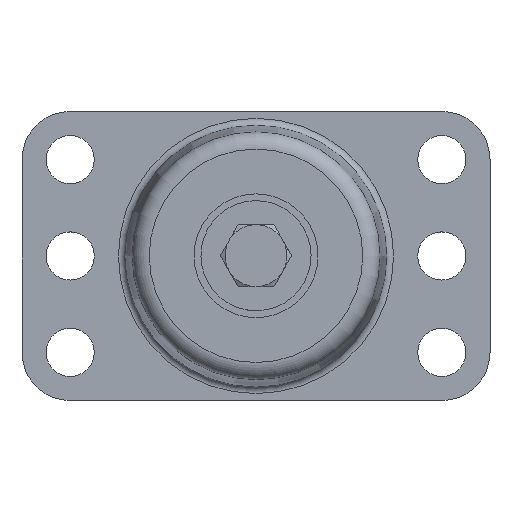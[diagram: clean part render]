
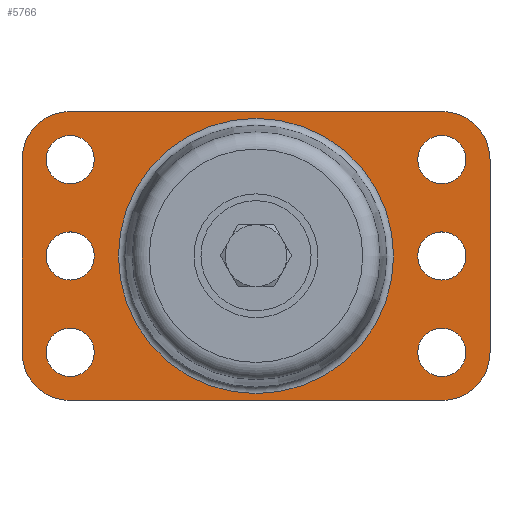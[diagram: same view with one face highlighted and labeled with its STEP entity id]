
A CAD part, top view. The second image highlights one B-rep face of the part: STEP entity #5766.
In plain terms, the highlighted planar face has unit normal (0, 0, 1).
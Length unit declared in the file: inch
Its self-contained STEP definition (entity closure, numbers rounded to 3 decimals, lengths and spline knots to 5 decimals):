
#320=PLANE('',#6127);
#514=LINE('',#7630,#1036);
#518=LINE('',#7642,#1040);
#522=LINE('',#7654,#1044);
#526=LINE('',#7665,#1048);
#1036=VECTOR('',#6460,1.75);
#1040=VECTOR('',#6472,3.375);
#1044=VECTOR('',#6484,3.375);
#1048=VECTOR('',#6496,1.75);
#1565=FACE_BOUND('',#2007,.T.);
#1566=FACE_BOUND('',#2008,.T.);
#1567=FACE_BOUND('',#2009,.T.);
#1568=FACE_BOUND('',#2010,.T.);
#1569=FACE_BOUND('',#2011,.T.);
#1570=FACE_BOUND('',#2012,.T.);
#1571=FACE_BOUND('',#2013,.T.);
#1667=FACE_OUTER_BOUND('',#2006,.T.);
#2006=EDGE_LOOP('',(#3866,#3867,#3868,#3869,#3870,#3871,#3872,#3873));
#2007=EDGE_LOOP('',(#3874));
#2008=EDGE_LOOP('',(#3875));
#2009=EDGE_LOOP('',(#3876));
#2010=EDGE_LOOP('',(#3877));
#2011=EDGE_LOOP('',(#3878));
#2012=EDGE_LOOP('',(#3879));
#2013=EDGE_LOOP('',(#3880));
#2404=CIRCLE('',#6087,0.21875);
#2406=CIRCLE('',#6090,0.21875);
#2408=CIRCLE('',#6093,0.21875);
#2410=CIRCLE('',#6096,0.21875);
#2412=CIRCLE('',#6099,0.21875);
#2414=CIRCLE('',#6102,0.21875);
#2416=CIRCLE('',#6105,0.4375);
#2418=CIRCLE('',#6109,0.4375);
#2420=CIRCLE('',#6113,0.4375);
#2422=CIRCLE('',#6117,0.4375);
#2427=CIRCLE('',#6126,1.24982);
#2486=VERTEX_POINT('',#7590);
#2488=VERTEX_POINT('',#7595);
#2490=VERTEX_POINT('',#7600);
#2492=VERTEX_POINT('',#7605);
#2494=VERTEX_POINT('',#7610);
#2496=VERTEX_POINT('',#7615);
#2498=VERTEX_POINT('',#7620);
#2499=VERTEX_POINT('',#7621);
#2502=VERTEX_POINT('',#7629);
#2504=VERTEX_POINT('',#7635);
#2506=VERTEX_POINT('',#7641);
#2508=VERTEX_POINT('',#7647);
#2510=VERTEX_POINT('',#7653);
#2512=VERTEX_POINT('',#7659);
#2517=VERTEX_POINT('',#7676);
#3028=EDGE_CURVE('',#2486,#2486,#2404,.T.);
#3030=EDGE_CURVE('',#2488,#2488,#2406,.T.);
#3032=EDGE_CURVE('',#2490,#2490,#2408,.T.);
#3034=EDGE_CURVE('',#2492,#2492,#2410,.T.);
#3036=EDGE_CURVE('',#2494,#2494,#2412,.T.);
#3038=EDGE_CURVE('',#2496,#2496,#2414,.T.);
#3040=EDGE_CURVE('',#2498,#2499,#2416,.T.);
#3044=EDGE_CURVE('',#2499,#2502,#514,.T.);
#3047=EDGE_CURVE('',#2502,#2504,#2418,.T.);
#3050=EDGE_CURVE('',#2504,#2506,#518,.T.);
#3053=EDGE_CURVE('',#2506,#2508,#2420,.T.);
#3056=EDGE_CURVE('',#2510,#2498,#522,.T.);
#3059=EDGE_CURVE('',#2512,#2510,#2422,.T.);
#3062=EDGE_CURVE('',#2508,#2512,#526,.T.);
#3067=EDGE_CURVE('',#2517,#2517,#2427,.T.);
#3866=ORIENTED_EDGE('',*,*,#3053,.T.);
#3867=ORIENTED_EDGE('',*,*,#3062,.T.);
#3868=ORIENTED_EDGE('',*,*,#3059,.T.);
#3869=ORIENTED_EDGE('',*,*,#3056,.T.);
#3870=ORIENTED_EDGE('',*,*,#3040,.T.);
#3871=ORIENTED_EDGE('',*,*,#3044,.T.);
#3872=ORIENTED_EDGE('',*,*,#3047,.T.);
#3873=ORIENTED_EDGE('',*,*,#3050,.T.);
#3874=ORIENTED_EDGE('',*,*,#3028,.T.);
#3875=ORIENTED_EDGE('',*,*,#3030,.T.);
#3876=ORIENTED_EDGE('',*,*,#3032,.T.);
#3877=ORIENTED_EDGE('',*,*,#3034,.T.);
#3878=ORIENTED_EDGE('',*,*,#3036,.T.);
#3879=ORIENTED_EDGE('',*,*,#3038,.T.);
#3880=ORIENTED_EDGE('',*,*,#3067,.T.);
#5766=ADVANCED_FACE('',(#1667,#1565,#1566,#1567,#1568,#1569,#1570,#1571),
#320,.T.);
#6087=AXIS2_PLACEMENT_3D('',#7591,#6416,#6417);
#6090=AXIS2_PLACEMENT_3D('',#7596,#6422,#6423);
#6093=AXIS2_PLACEMENT_3D('',#7601,#6428,#6429);
#6096=AXIS2_PLACEMENT_3D('',#7606,#6434,#6435);
#6099=AXIS2_PLACEMENT_3D('',#7611,#6440,#6441);
#6102=AXIS2_PLACEMENT_3D('',#7616,#6446,#6447);
#6105=AXIS2_PLACEMENT_3D('',#7622,#6452,#6453);
#6109=AXIS2_PLACEMENT_3D('',#7636,#6465,#6466);
#6113=AXIS2_PLACEMENT_3D('',#7648,#6477,#6478);
#6117=AXIS2_PLACEMENT_3D('',#7660,#6489,#6490);
#6126=AXIS2_PLACEMENT_3D('',#7677,#6510,#6511);
#6127=AXIS2_PLACEMENT_3D('',#7678,#6512,#6513);
#6416=DIRECTION('center_axis',(0.,0.,
-1.));
#6417=DIRECTION('ref_axis',(-1.,0.,0.));
#6422=DIRECTION('center_axis',(0.,0.,
-1.));
#6423=DIRECTION('ref_axis',(-1.,0.,0.));
#6428=DIRECTION('center_axis',(0.,0.,
-1.));
#6429=DIRECTION('ref_axis',(-1.,0.,0.));
#6434=DIRECTION('center_axis',(0.,0.,
-1.));
#6435=DIRECTION('ref_axis',(-1.,0.,0.));
#6440=DIRECTION('center_axis',(0.,0.,
-1.));
#6441=DIRECTION('ref_axis',(-1.,0.,0.));
#6446=DIRECTION('center_axis',(0.,0.,
-1.));
#6447=DIRECTION('ref_axis',(-1.,0.,0.));
#6452=DIRECTION('center_axis',(0.,0.,
1.));
#6453=DIRECTION('ref_axis',(0.,1.,0.));
#6460=DIRECTION('',(0.,-1.,0.));
#6465=DIRECTION('center_axis',(0.,0.,
1.));
#6466=DIRECTION('ref_axis',(-1.,0.,0.));
#6472=DIRECTION('',(1.,0.,0.));
#6477=DIRECTION('center_axis',(0.,0.,
1.));
#6478=DIRECTION('ref_axis',(0.,-1.,0.));
#6484=DIRECTION('',(-1.,0.,0.));
#6489=DIRECTION('center_axis',(0.,0.,
1.));
#6490=DIRECTION('ref_axis',(1.,0.,0.));
#6496=DIRECTION('',(0.,1.,0.));
#6510=DIRECTION('center_axis',(0.,0.,
-1.));
#6511=DIRECTION('ref_axis',(1.,0.,0.));
#6512=DIRECTION('center_axis',(0.,0.,
1.));
#6513=DIRECTION('ref_axis',(-1.,0.,0.));
#7590=CARTESIAN_POINT('',(-1.46875,0.875,0.09375));
#7591=CARTESIAN_POINT('Origin',(-1.6875,0.875,0.09375));
#7595=CARTESIAN_POINT('',(1.90625,-0.875,0.09375));
#7596=CARTESIAN_POINT('Origin',(1.6875,-0.875,0.09375));
#7600=CARTESIAN_POINT('',(1.90625,0.,0.09375));
#7601=CARTESIAN_POINT('Origin',(1.6875,0.,0.09375));
#7605=CARTESIAN_POINT('',(-1.46875,0.,0.09375));
#7606=CARTESIAN_POINT('Origin',(-1.6875,0.,0.09375));
#7610=CARTESIAN_POINT('',(1.90625,0.875,0.09375));
#7611=CARTESIAN_POINT('Origin',(1.6875,0.875,0.09375));
#7615=CARTESIAN_POINT('',(-1.46875,-0.875,0.09375));
#7616=CARTESIAN_POINT('Origin',(-1.6875,-0.875,0.09375));
#7620=CARTESIAN_POINT('',(-1.6875,1.3125,0.09375));
#7621=CARTESIAN_POINT('',(-2.125,0.875,0.09375));
#7622=CARTESIAN_POINT('Origin',(-1.6875,0.875,0.09375));
#7629=CARTESIAN_POINT('',(-2.125,-0.875,0.09375));
#7630=CARTESIAN_POINT('',(-2.125,-0.4375,0.09375));
#7635=CARTESIAN_POINT('',(-1.6875,-1.3125,0.09375));
#7636=CARTESIAN_POINT('Origin',(-1.6875,-0.875,0.09375));
#7641=CARTESIAN_POINT('',(1.6875,-1.3125,0.09375));
#7642=CARTESIAN_POINT('',(2.28121,-1.3125,0.09375));
#7647=CARTESIAN_POINT('',(2.125,-0.875,0.09375));
#7648=CARTESIAN_POINT('Origin',(1.6875,-0.875,0.09375));
#7653=CARTESIAN_POINT('',(1.6875,1.3125,0.09375));
#7654=CARTESIAN_POINT('',(0.59371,1.3125,0.09375));
#7659=CARTESIAN_POINT('',(2.125,0.875,0.09375));
#7660=CARTESIAN_POINT('Origin',(1.6875,0.875,0.09375));
#7665=CARTESIAN_POINT('',(2.125,0.4375,0.09375));
#7676=CARTESIAN_POINT('',(1.24982,0.,0.09375));
#7677=CARTESIAN_POINT('Origin',(0.,0.,
0.09375));
#7678=CARTESIAN_POINT('Origin',(2.87491,0.,0.09375));
